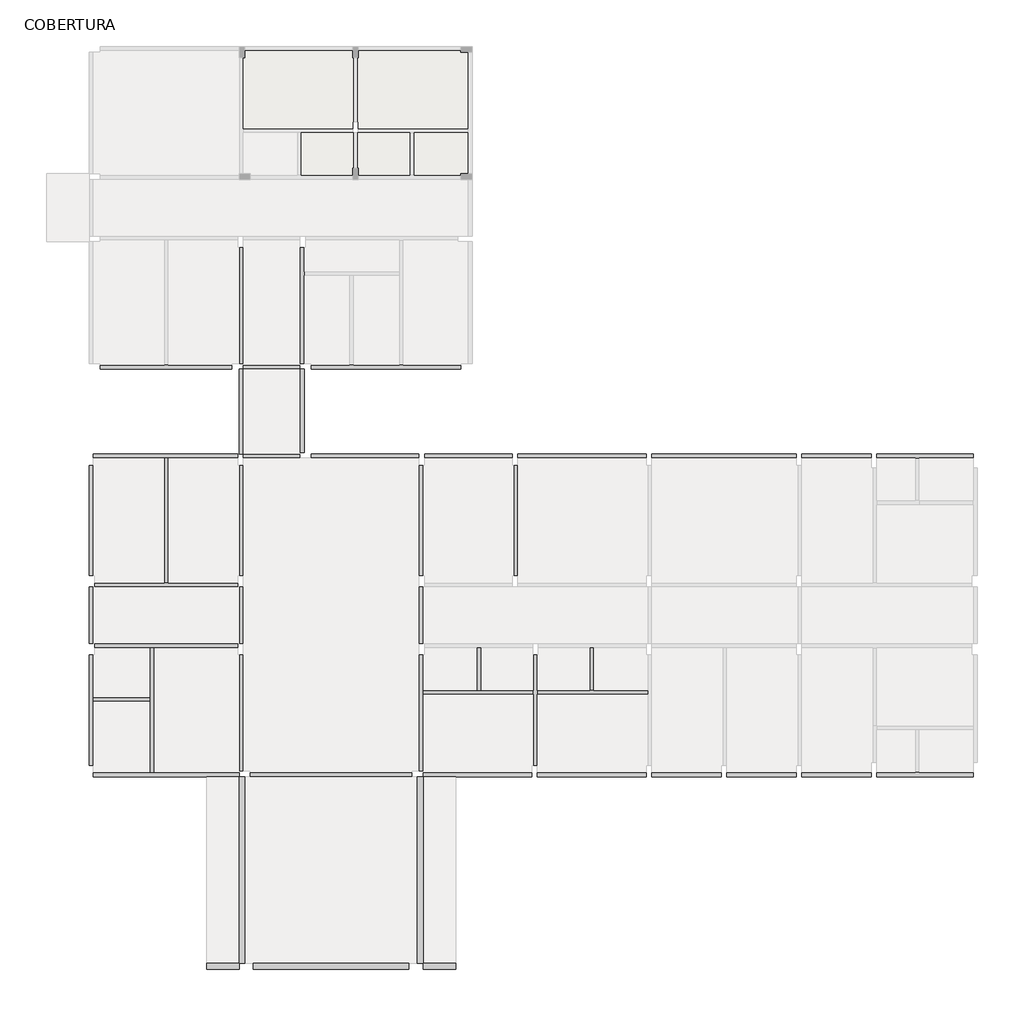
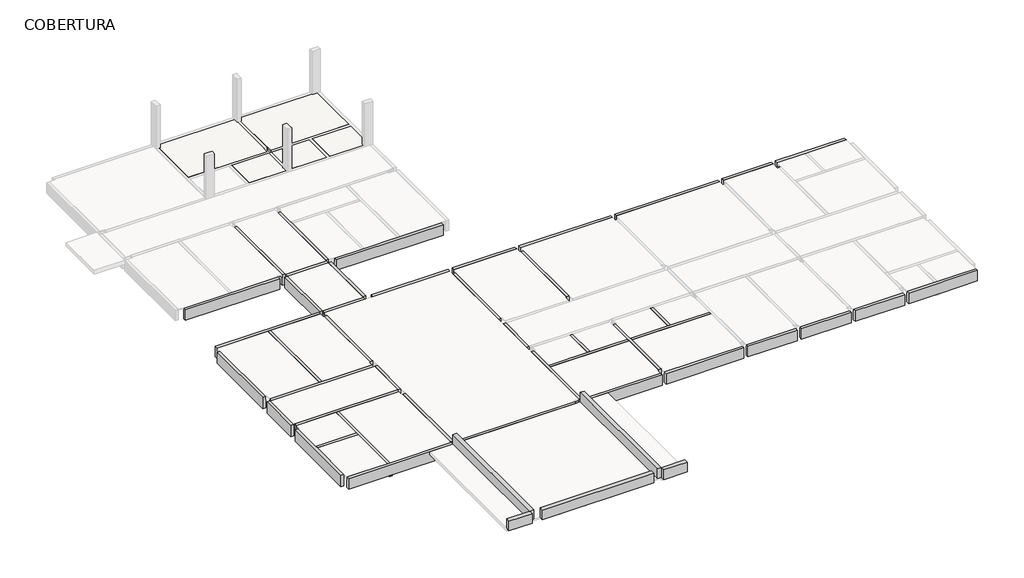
# One storey, part 4 of 5: 20 beams, 10 slabs.
"""IFC4 building model written with IfcOpenShell, lengths in millimetres."""

from ifc_helpers import new_model, si_unit, frame, origin, place, context, project, spatial, polyline, outline, extrude, faceted_brep, element, save

model = new_model("IFC4")

# Units and contexts
model_context = context("Model", 3, world=origin())
ifc_project = project(units=[si_unit("LENGTHUNIT", "METRE", prefix="MILLI")], contexts=[model_context])

# Site, building, storey
site = spatial("IfcSite", under=ifc_project)
building = spatial("IfcBuilding", under=site)
storey = spatial("IfcBuildingStorey", under=building, Name="COBERTURA", Elevation=4800.0)

# Beams
placement = place(None, origin())
element("IfcBeam", 1, ObjectType="TQS - Viga retangular : 15,0 x 50,0", at=placement, inside=storey, context=model_context, shape_type="Brep", body=[
    faceted_brep([(15150.0, 11000.0, 4800.0), (15000.0, 11000.0, 4800.0), (15000.0, 7100.0, 4800.0), (15150.0, 7100.0, 4800.0), (15150.0, 11000.0, 4300.0), (15150.0, 7100.0, 4300.0), (15000.0, 11000.0, 4300.0), (15000.0, 7100.0, 4300.0), (15000.0, 11000.0, 4750.0), (15000.0, 11000.0, 4650.0), (15000.0, 7100.0, 4650.0), (15000.0, 7100.0, 4750.0)], [[[0, 1, 2, 3]], [[4, 0, 3, 5]], [[6, 4, 5, 7]], [[1, 8, 9, 6, 7, 10, 11, 2]], [[1, 0, 4, 6, 9, 8]], [[2, 11, 10, 7, 5, 3]]]),
])
element("IfcBeam", 2, ObjectType="TQS - Viga retangular : 15,0 x 55,0", at=placement, inside=storey, context=model_context, shape_type="Brep", body=[
    faceted_brep([(31230.0, 0.0, 4800.0), (31230.0, 150.0, 4800.0), (29330.0, 150.0, 4800.0), (29180.0, 150.0, 4800.0), (27830.0, 150.0, 4800.0), (27830.0, 0.0, 4800.0), (31230.0, 0.0, 4250.0), (27830.0, 0.0, 4250.0), (29180.0, 0.0, 4250.0), (29330.0, 0.0, 4250.0), (31230.0, 150.0, 4250.0), (27830.0, 150.0, 4250.0), (29180.0, 150.0, 4250.0), (29330.0, 150.0, 4250.0), (31230.0, 150.0, 4750.0), (31230.0, 150.0, 4650.0), (27830.0, 150.0, 4750.0)], [[[0, 1, 2, 3, 4, 5]], [[6, 0, 5, 7, 8, 9]], [[10, 6, 9, 8, 7, 11, 12, 13]], [[1, 14, 15, 10, 13, 12, 11, 16, 4, 3, 2]], [[1, 0, 6, 10, 15, 14]], [[5, 4, 16, 11, 7]]]),
    faceted_brep([(150.0, 0.0, 4800.0), (150.0, 150.0, 4800.0), (150.0, 150.0, 4750.0), (150.0, 150.0, 4650.0), (150.0, 150.0, 4250.0), (150.0, 0.0, 4250.0), (5300.0, 150.0, 4800.0), (5300.0, 0.0, 4800.0), (5300.0, 0.0, 4650.0), (5300.0, 0.0, 4250.0), (5300.0, 150.0, 4250.0), (5300.0, 150.0, 4750.0), (4150.0, 0.0, 4800.0), (2300.0, 150.0, 4800.0), (2150.0, 150.0, 4800.0), (2150.0, 0.0, 4250.0), (2300.0, 0.0, 4250.0), (2150.0, 150.0, 4250.0), (2300.0, 150.0, 4250.0)], [[[0, 1, 2, 3, 4, 5]], [[6, 7, 8, 9, 10, 11]], [[1, 0, 12, 7, 6, 13, 14]], [[0, 5, 15, 16, 9, 8, 7, 12]], [[5, 4, 17, 18, 10, 9, 16, 15]], [[4, 3, 2, 1, 14, 13, 6, 11, 10, 18, 17]]]),
    faceted_brep([(5700.0, 0.0, 4800.0), (5700.0, 150.0, 4800.0), (5700.0, 150.0, 4740.0), (5700.0, 150.0, 4620.0), (5700.0, 150.0, 4250.0), (5700.0, 0.0, 4250.0), (11400.0, 150.0, 4800.0), (11400.0, 0.0, 4800.0), (11400.0, 0.0, 4250.0), (11400.0, 150.0, 4250.0), (11400.0, 150.0, 4740.0)], [[[0, 1, 2, 3, 4, 5]], [[6, 7, 8, 9, 10]], [[1, 0, 7, 6]], [[0, 5, 8, 7]], [[5, 4, 9, 8]], [[4, 3, 2, 1, 6, 10, 9]]]),
    faceted_brep([(11800.0, 0.0, 4800.0), (11800.0, 150.0, 4800.0), (11800.0, 150.0, 4750.0), (11800.0, 150.0, 4250.0), (11800.0, 0.0, 4250.0), (11800.0, 0.0, 4650.0), (15640.0, 150.0, 4800.0), (15640.0, 0.0, 4800.0), (15640.0, 0.0, 4250.0), (15640.0, 150.0, 4250.0), (15640.0, 150.0, 4650.0), (15640.0, 150.0, 4750.0), (12950.0, 0.0, 4800.0)], [[[0, 1, 2, 3, 4, 5]], [[6, 7, 8, 9, 10, 11]], [[1, 0, 12, 7, 6]], [[0, 5, 4, 8, 7, 12]], [[4, 3, 9, 8]], [[3, 2, 1, 6, 11, 10, 9]]]),
    faceted_brep([(27630.0, 150.0, 4800.0), (27630.0, 0.0, 4800.0), (27630.0, 0.0, 4250.0), (27630.0, 150.0, 4250.0), (27630.0, 150.0, 4750.0), (25180.0, 150.0, 4800.0), (25180.0, 0.0, 4800.0), (25180.0, 0.0, 4250.0), (25180.0, 150.0, 4250.0), (25180.0, 150.0, 4750.0)], [[[0, 1, 2, 3, 4]], [[1, 0, 5, 6]], [[2, 1, 6, 7]], [[3, 2, 7, 8]], [[0, 4, 3, 8, 9, 5]], [[6, 5, 9, 8, 7]]]),
    faceted_brep([(24980.0, 150.0, 4800.0), (24980.0, 0.0, 4800.0), (24980.0, 0.0, 4250.0), (24980.0, 150.0, 4250.0), (24980.0, 150.0, 4750.0), (22530.0, 150.0, 4800.0), (22530.0, 0.0, 4800.0), (22530.0, 0.0, 4250.0), (22530.0, 150.0, 4250.0), (22530.0, 150.0, 4750.0)], [[[0, 1, 2, 3, 4]], [[1, 0, 5, 6]], [[2, 1, 6, 7]], [[3, 2, 7, 8]], [[0, 4, 3, 8, 9, 5]], [[6, 5, 9, 8, 7]]]),
    faceted_brep([(22330.0, 150.0, 4800.0), (22330.0, 0.0, 4800.0), (22330.0, 0.0, 4250.0), (22330.0, 150.0, 4250.0), (22330.0, 150.0, 4750.0), (19880.0, 150.0, 4800.0), (19880.0, 0.0, 4800.0), (19880.0, 0.0, 4250.0), (19880.0, 150.0, 4250.0), (19880.0, 150.0, 4750.0)], [[[0, 1, 2, 3, 4]], [[1, 0, 5, 6]], [[2, 1, 6, 7]], [[3, 2, 7, 8]], [[0, 4, 3, 8, 9, 5]], [[6, 5, 9, 8, 7]]]),
    faceted_brep([(19680.0, 150.0, 4800.0), (19680.0, 0.0, 4800.0), (19680.0, 0.0, 4250.0), (19680.0, 150.0, 4250.0), (19680.0, 150.0, 4650.0), (19680.0, 150.0, 4750.0), (15840.0, 150.0, 4800.0), (15840.0, 0.0, 4800.0), (15840.0, 0.0, 4250.0), (15840.0, 150.0, 4250.0), (15840.0, 150.0, 4750.0)], [[[0, 1, 2, 3, 4, 5]], [[1, 0, 6, 7]], [[2, 1, 7, 8]], [[3, 2, 8, 9]], [[0, 5, 4, 3, 9, 10, 6]], [[7, 6, 10, 9, 8]]]),
])
element("IfcBeam", 3, ObjectType="TQS - Viga retangular : 15,0 x 55,0", at=placement, inside=storey, context=model_context, shape_type="Brep", body=[
    faceted_brep([(7850.0, 14550.0, 4800.0), (7850.0, 14400.0, 4800.0), (13130.0, 14400.0, 4800.0), (13130.0, 14550.0, 4800.0), (11100.0, 14550.0, 4800.0), (10950.0, 14550.0, 4800.0), (9350.0, 14550.0, 4800.0), (9200.0, 14550.0, 4800.0), (7850.0, 14400.0, 4250.0), (13130.0, 14400.0, 4250.0), (7850.0, 14550.0, 4250.0), (9200.0, 14550.0, 4250.0), (9350.0, 14550.0, 4250.0), (10950.0, 14550.0, 4250.0), (11100.0, 14550.0, 4250.0), (13130.0, 14550.0, 4250.0), (7850.0, 14550.0, 4650.0), (7850.0, 14550.0, 4750.0), (13130.0, 14550.0, 4750.0)], [[[0, 1, 2, 3, 4, 5, 6, 7]], [[1, 8, 9, 2]], [[8, 10, 11, 12, 13, 14, 15, 9]], [[10, 16, 17, 0, 7, 6, 5, 4, 3, 18, 15, 14, 13, 12, 11]], [[1, 0, 17, 16, 10, 8]], [[3, 2, 9, 15, 18]]]),
    faceted_brep([(400.0, 14400.0, 4800.0), (400.0, 14550.0, 4800.0), (400.0, 14550.0, 4750.0), (400.0, 14550.0, 4250.0), (400.0, 14400.0, 4250.0), (5050.0, 14550.0, 4800.0), (5050.0, 14400.0, 4800.0), (5050.0, 14400.0, 4250.0), (5050.0, 14550.0, 4250.0), (5050.0, 14550.0, 4750.0), (2800.0, 14550.0, 4800.0), (2650.0, 14550.0, 4800.0)], [[[0, 1, 2, 3, 4]], [[5, 6, 7, 8, 9]], [[1, 0, 6, 5, 10, 11]], [[0, 4, 7, 6]], [[4, 3, 8, 7]], [[3, 2, 1, 11, 10, 5, 9, 8]]]),
    faceted_brep([(5450.0, 14400.0, 4800.0), (5450.0, 14550.0, 4800.0), (5450.0, 14550.0, 4750.0), (5450.0, 14550.0, 4250.0), (5450.0, 14400.0, 4250.0), (5450.0, 14400.0, 4750.0), (7450.0, 14550.0, 4800.0), (7450.0, 14400.0, 4800.0), (7450.0, 14400.0, 4750.0), (7450.0, 14400.0, 4250.0), (7450.0, 14550.0, 4250.0), (7450.0, 14550.0, 4750.0)], [[[0, 1, 2, 3, 4, 5]], [[6, 7, 8, 9, 10, 11]], [[1, 0, 7, 6]], [[0, 5, 4, 9, 8, 7]], [[4, 3, 10, 9]], [[3, 2, 1, 6, 11, 10]]]),
])
element("IfcBeam", 4, ObjectType="TQS - Viga retangular : 15,0 x 55,0", at=placement, inside=storey, context=model_context, shape_type="Brep", body=[
    faceted_brep([(31230.0, 11250.0, 4800.0), (31230.0, 11400.0, 4800.0), (27830.0, 11400.0, 4800.0), (27830.0, 11250.0, 4800.0), (29180.0, 11250.0, 4800.0), (29330.0, 11250.0, 4800.0), (31230.0, 11250.0, 4250.0), (31230.0, 11250.0, 4650.0), (31230.0, 11250.0, 4750.0), (27830.0, 11250.0, 4750.0), (27830.0, 11250.0, 4650.0), (27830.0, 11250.0, 4250.0), (29180.0, 11250.0, 4250.0), (29330.0, 11250.0, 4250.0), (31230.0, 11400.0, 4250.0), (27830.0, 11400.0, 4250.0)], [[[0, 1, 2, 3, 4, 5]], [[6, 7, 8, 0, 5, 4, 3, 9, 10, 11, 12, 13]], [[14, 6, 13, 12, 11, 15]], [[1, 14, 15, 2]], [[1, 0, 8, 7, 6, 14]], [[3, 2, 15, 11, 10, 9]]]),
    faceted_brep([(27630.0, 11400.0, 4800.0), (27630.0, 11250.0, 4800.0), (27630.0, 11250.0, 4750.0), (27630.0, 11250.0, 4650.0), (27630.0, 11250.0, 4250.0), (27630.0, 11400.0, 4250.0), (25180.0, 11400.0, 4800.0), (25180.0, 11250.0, 4800.0), (25180.0, 11250.0, 4750.0), (25180.0, 11250.0, 4650.0), (25180.0, 11250.0, 4250.0), (25180.0, 11400.0, 4250.0)], [[[0, 1, 2, 3, 4, 5]], [[1, 0, 6, 7]], [[4, 3, 2, 1, 7, 8, 9, 10]], [[5, 4, 10, 11]], [[0, 5, 11, 6]], [[7, 6, 11, 10, 9, 8]]]),
    faceted_brep([(24980.0, 11400.0, 4800.0), (24980.0, 11250.0, 4800.0), (24980.0, 11250.0, 4750.0), (24980.0, 11250.0, 4650.0), (24980.0, 11250.0, 4250.0), (24980.0, 11400.0, 4250.0), (19880.0, 11400.0, 4800.0), (19880.0, 11250.0, 4800.0), (19880.0, 11250.0, 4750.0), (19880.0, 11250.0, 4650.0), (19880.0, 11250.0, 4250.0), (19880.0, 11400.0, 4250.0)], [[[0, 1, 2, 3, 4, 5]], [[1, 0, 6, 7]], [[4, 3, 2, 1, 7, 8, 9, 10]], [[5, 4, 10, 11]], [[0, 5, 11, 6]], [[7, 6, 11, 10, 9, 8]]]),
    faceted_brep([(19680.0, 11400.0, 4800.0), (19680.0, 11250.0, 4800.0), (19680.0, 11250.0, 4750.0), (19680.0, 11250.0, 4650.0), (19680.0, 11250.0, 4250.0), (19680.0, 11400.0, 4250.0), (15150.0, 11400.0, 4800.0), (15150.0, 11250.0, 4800.0), (15150.0, 11250.0, 4750.0), (15150.0, 11250.0, 4650.0), (15150.0, 11250.0, 4250.0), (15150.0, 11400.0, 4250.0)], [[[0, 1, 2, 3, 4, 5]], [[1, 0, 6, 7]], [[4, 3, 2, 1, 7, 8, 9, 10]], [[5, 4, 10, 11]], [[0, 5, 11, 6]], [[7, 6, 11, 10, 9, 8]]]),
    faceted_brep([(14950.0, 11400.0, 4800.0), (14950.0, 11250.0, 4800.0), (14950.0, 11250.0, 4750.0), (14950.0, 11250.0, 4650.0), (14950.0, 11250.0, 4250.0), (14950.0, 11400.0, 4250.0), (11850.0, 11400.0, 4800.0), (11850.0, 11250.0, 4800.0), (11850.0, 11250.0, 4750.0), (11850.0, 11250.0, 4650.0), (11850.0, 11250.0, 4250.0), (11850.0, 11400.0, 4250.0)], [[[0, 1, 2, 3, 4, 5]], [[1, 0, 6, 7]], [[4, 3, 2, 1, 7, 8, 9, 10]], [[5, 4, 10, 11]], [[0, 5, 11, 6]], [[7, 6, 11, 10, 9, 8]]]),
    faceted_brep([(11650.0, 11400.0, 4800.0), (11650.0, 11250.0, 4800.0), (11650.0, 11250.0, 4740.0), (11650.0, 11250.0, 4250.0), (11650.0, 11400.0, 4250.0), (7850.0, 11400.0, 4800.0), (7850.0, 11250.0, 4800.0), (7850.0, 11250.0, 4250.0), (7850.0, 11400.0, 4250.0)], [[[0, 1, 2, 3, 4]], [[1, 0, 5, 6]], [[3, 2, 1, 6, 7]], [[4, 3, 7, 8]], [[0, 4, 8, 5]], [[6, 5, 8, 7]]]),
    faceted_brep([(150.0, 11250.0, 4800.0), (150.0, 11400.0, 4800.0), (150.0, 11400.0, 4250.0), (150.0, 11250.0, 4250.0), (150.0, 11250.0, 4650.0), (150.0, 11250.0, 4750.0), (5250.0, 11400.0, 4800.0), (5250.0, 11250.0, 4800.0), (5250.0, 11250.0, 4750.0), (5250.0, 11250.0, 4650.0), (5250.0, 11250.0, 4250.0), (5250.0, 11400.0, 4250.0), (2650.0, 11250.0, 4800.0), (2800.0, 11250.0, 4800.0), (2650.0, 11250.0, 4250.0), (2800.0, 11250.0, 4250.0)], [[[0, 1, 2, 3, 4, 5]], [[6, 7, 8, 9, 10, 11]], [[1, 0, 12, 13, 7, 6]], [[0, 5, 4, 3, 14, 15, 10, 9, 8, 7, 13, 12]], [[3, 2, 11, 10, 15, 14]], [[2, 1, 6, 11]]]),
    faceted_brep([(5450.0, 11250.0, 4800.0), (5450.0, 11400.0, 4800.0), (5450.0, 11400.0, 4750.0), (5450.0, 11400.0, 4650.0), (5450.0, 11400.0, 4250.0), (5450.0, 11250.0, 4250.0), (5450.0, 11250.0, 4740.0), (7450.0, 11400.0, 4800.0), (7450.0, 11250.0, 4800.0), (7450.0, 11250.0, 4250.0), (7450.0, 11400.0, 4250.0), (7450.0, 11400.0, 4650.0), (7450.0, 11400.0, 4750.0)], [[[0, 1, 2, 3, 4, 5, 6]], [[7, 8, 9, 10, 11, 12]], [[1, 0, 8, 7]], [[0, 6, 5, 9, 8]], [[5, 4, 10, 9]], [[4, 3, 2, 1, 7, 12, 11, 10]]]),
])
element("IfcBeam", 5, ObjectType="TQS - Viga retangular : 15,0 x 55,0", at=placement, inside=storey, context=model_context, shape_type="Brep", body=[
    faceted_brep([(5250.0, 6700.0, 4800.0), (5250.0, 6850.0, 4800.0), (2800.0, 6850.0, 4800.0), (2650.0, 6850.0, 4800.0), (200.0, 6850.0, 4800.0), (200.0, 6700.0, 4800.0), (5250.0, 6700.0, 4250.0), (200.0, 6700.0, 4250.0), (5250.0, 6850.0, 4250.0), (200.0, 6850.0, 4250.0), (2650.0, 6850.0, 4250.0), (2800.0, 6850.0, 4250.0), (5250.0, 6850.0, 4750.0), (200.0, 6850.0, 4750.0)], [[[0, 1, 2, 3, 4, 5]], [[6, 0, 5, 7]], [[8, 6, 7, 9, 10, 11]], [[1, 12, 8, 11, 10, 9, 13, 4, 3, 2]], [[1, 0, 6, 8, 12]], [[5, 4, 13, 9, 7]]]),
])
element("IfcBeam", 6, ObjectType="TQS - Viga retangular : 15,0 x 55,0", at=placement, inside=storey, context=model_context, shape_type="Brep", body=[
    faceted_brep([(5300.0, 200.0, 4800.0), (5450.0, 200.0, 4800.0), (5450.0, 4300.0, 4800.0), (5300.0, 4300.0, 4800.0), (5450.0, 200.0, 4740.0), (5450.0, 200.0, 4250.0), (5450.0, 4300.0, 4250.0), (5300.0, 200.0, 4250.0), (5300.0, 4300.0, 4250.0), (5300.0, 4300.0, 4750.0), (5300.0, 4300.0, 4650.0)], [[[0, 1, 2, 3]], [[1, 4, 5, 6, 2]], [[5, 7, 8, 6]], [[7, 0, 3, 9, 10, 8]], [[1, 0, 7, 5, 4]], [[3, 2, 6, 8, 10, 9]]]),
    faceted_brep([(5450.0, 4700.0, 4800.0), (5300.0, 4700.0, 4800.0), (5300.0, 4700.0, 4750.0), (5300.0, 4700.0, 4250.0), (5450.0, 4700.0, 4250.0), (5300.0, 6700.0, 4800.0), (5450.0, 6700.0, 4800.0), (5450.0, 6700.0, 4250.0), (5300.0, 6700.0, 4250.0), (5300.0, 6700.0, 4750.0)], [[[0, 1, 2, 3, 4]], [[5, 6, 7, 8, 9]], [[1, 0, 6, 5]], [[0, 4, 7, 6]], [[4, 3, 8, 7]], [[3, 2, 1, 5, 9, 8]]]),
    faceted_brep([(5300.0, 11000.0, 4800.0), (5300.0, 7100.0, 4800.0), (5450.0, 7100.0, 4800.0), (5450.0, 11000.0, 4800.0), (5450.0, 7100.0, 4250.0), (5450.0, 11000.0, 4250.0), (5300.0, 7100.0, 4250.0), (5300.0, 11000.0, 4250.0), (5300.0, 11000.0, 4750.0), (5300.0, 11000.0, 4650.0), (5300.0, 7100.0, 4650.0), (5300.0, 7100.0, 4750.0)], [[[0, 1, 2, 3]], [[3, 2, 4, 5]], [[5, 4, 6, 7]], [[1, 0, 8, 9, 7, 6, 10, 11]], [[2, 1, 11, 10, 6, 4]], [[0, 3, 5, 7, 9, 8]]]),
    faceted_brep([(5450.0, 11400.0, 4800.0), (5300.0, 11400.0, 4800.0), (5300.0, 11400.0, 4250.0), (5450.0, 11400.0, 4250.0), (5450.0, 11400.0, 4650.0), (5450.0, 11400.0, 4750.0), (5300.0, 14400.0, 4800.0), (5450.0, 14400.0, 4800.0), (5450.0, 14400.0, 4750.0), (5450.0, 14400.0, 4250.0), (5300.0, 14400.0, 4250.0)], [[[0, 1, 2, 3, 4, 5]], [[6, 7, 8, 9, 10]], [[6, 1, 0, 7]], [[7, 0, 5, 4, 3, 9, 8]], [[9, 3, 2, 10]], [[1, 6, 10, 2]]]),
    faceted_brep([(5450.0, 14600.0, 4800.0), (5300.0, 14600.0, 4800.0), (5300.0, 14600.0, 4750.0), (5300.0, 14600.0, 4650.0), (5300.0, 14600.0, 4250.0), (5450.0, 14600.0, 4250.0), (5300.0, 18700.0, 4800.0), (5450.0, 18700.0, 4800.0), (5450.0, 18700.0, 4250.0), (5300.0, 18700.0, 4250.0), (5300.0, 18700.0, 4650.0), (5300.0, 18700.0, 4750.0)], [[[0, 1, 2, 3, 4, 5]], [[6, 7, 8, 9, 10, 11]], [[1, 0, 7, 6]], [[0, 5, 8, 7]], [[5, 4, 9, 8]], [[4, 3, 2, 1, 6, 11, 10, 9]]]),
])
element("IfcBeam", 7, ObjectType="TQS - Viga retangular : 15,0 x 55,0", at=placement, inside=storey, context=model_context, shape_type="Brep", body=[
    faceted_brep([(11650.0, 200.0, 4800.0), (11800.0, 200.0, 4800.0), (11800.0, 2900.0, 4800.0), (11800.0, 3050.0, 4800.0), (11800.0, 4300.0, 4800.0), (11650.0, 4300.0, 4800.0), (11800.0, 200.0, 4250.0), (11800.0, 2900.0, 4250.0), (11800.0, 3050.0, 4250.0), (11800.0, 4300.0, 4250.0), (11800.0, 4300.0, 4650.0), (11800.0, 4300.0, 4750.0), (11650.0, 200.0, 4250.0), (11650.0, 4300.0, 4250.0), (11650.0, 200.0, 4740.0)], [[[0, 1, 2, 3, 4, 5]], [[1, 6, 7, 8, 9, 10, 11, 4, 3, 2]], [[6, 12, 13, 9, 8, 7]], [[12, 14, 0, 5, 13]], [[1, 0, 14, 12, 6]], [[5, 4, 11, 10, 9, 13]]]),
    faceted_brep([(11800.0, 4700.0, 4800.0), (11650.0, 4700.0, 4800.0), (11650.0, 4700.0, 4250.0), (11800.0, 4700.0, 4250.0), (11800.0, 4700.0, 4750.0), (11650.0, 6700.0, 4800.0), (11800.0, 6700.0, 4800.0), (11800.0, 6700.0, 4750.0), (11800.0, 6700.0, 4250.0), (11650.0, 6700.0, 4250.0)], [[[0, 1, 2, 3, 4]], [[5, 6, 7, 8, 9]], [[1, 0, 6, 5]], [[0, 4, 3, 8, 7, 6]], [[3, 2, 9, 8]], [[2, 1, 5, 9]]]),
    faceted_brep([(11650.0, 7100.0, 4800.0), (11800.0, 7100.0, 4800.0), (11800.0, 11000.0, 4800.0), (11650.0, 11000.0, 4800.0), (11800.0, 7100.0, 4750.0), (11800.0, 7100.0, 4650.0), (11800.0, 7100.0, 4250.0), (11800.0, 11000.0, 4250.0), (11800.0, 11000.0, 4650.0), (11800.0, 11000.0, 4750.0), (11650.0, 7100.0, 4250.0), (11650.0, 11000.0, 4250.0)], [[[0, 1, 2, 3]], [[1, 4, 5, 6, 7, 8, 9, 2]], [[6, 10, 11, 7]], [[10, 0, 3, 11]], [[1, 0, 10, 6, 5, 4]], [[3, 2, 9, 8, 7, 11]]]),
])
element("IfcBeam", 8, ObjectType="TQS - Viga retangular : 15,0 x 55,0", at=placement, inside=storey, context=model_context, shape_type="Brep", body=[
    faceted_brep([(15690.0, 400.0, 4800.0), (15840.0, 400.0, 4800.0), (15840.0, 2900.0, 4800.0), (15840.0, 3050.0, 4800.0), (15840.0, 4300.0, 4800.0), (15690.0, 4300.0, 4800.0), (15690.0, 3050.0, 4800.0), (15690.0, 2900.0, 4800.0), (15840.0, 400.0, 4250.0), (15840.0, 2900.0, 4250.0), (15840.0, 3050.0, 4250.0), (15840.0, 4300.0, 4250.0), (15840.0, 4300.0, 4650.0), (15840.0, 4300.0, 4750.0), (15690.0, 400.0, 4250.0), (15690.0, 2900.0, 4250.0), (15690.0, 3050.0, 4250.0), (15690.0, 4300.0, 4250.0), (15690.0, 400.0, 4650.0), (15690.0, 400.0, 4750.0), (15690.0, 4300.0, 4750.0), (15690.0, 4300.0, 4650.0)], [[[0, 1, 2, 3, 4, 5, 6, 7]], [[1, 8, 9, 10, 11, 12, 13, 4, 3, 2]], [[8, 14, 15, 16, 17, 11, 10, 9]], [[14, 18, 19, 0, 7, 6, 5, 20, 21, 17, 16, 15]], [[1, 0, 19, 18, 14, 8]], [[5, 4, 13, 12, 11, 17, 21, 20]]]),
])
element("IfcBeam", 9, ObjectType="TQS - Viga retangular : 15,0 x 55,0", at=placement, inside=storey, context=model_context, shape_type="Brep", body=[
    faceted_brep([(11800.0, 3050.0, 4800.0), (11800.0, 2900.0, 4800.0), (15690.0, 2900.0, 4800.0), (15690.0, 3050.0, 4800.0), (13850.0, 3050.0, 4800.0), (13700.0, 3050.0, 4800.0), (11800.0, 2900.0, 4750.0), (11800.0, 2900.0, 4250.0), (15690.0, 2900.0, 4250.0), (15690.0, 2900.0, 4650.0), (15690.0, 2900.0, 4750.0), (11800.0, 3050.0, 4250.0), (13700.0, 3050.0, 4250.0), (13850.0, 3050.0, 4250.0), (15690.0, 3050.0, 4250.0), (11800.0, 3050.0, 4650.0), (11800.0, 3050.0, 4750.0), (15690.0, 3050.0, 4750.0)], [[[0, 1, 2, 3, 4, 5]], [[1, 6, 7, 8, 9, 10, 2]], [[7, 11, 12, 13, 14, 8]], [[11, 15, 16, 0, 5, 4, 3, 17, 14, 13, 12]], [[1, 0, 16, 15, 11, 7, 6]], [[3, 2, 10, 9, 8, 14, 17]]]),
    faceted_brep([(15840.0, 2900.0, 4800.0), (15840.0, 3050.0, 4800.0), (15840.0, 3050.0, 4750.0), (15840.0, 3050.0, 4250.0), (15840.0, 2900.0, 4250.0), (15840.0, 2900.0, 4750.0), (19730.0, 2900.0, 4800.0), (19730.0, 3050.0, 4800.0), (17830.0, 3050.0, 4800.0), (17680.0, 3050.0, 4800.0), (19730.0, 2900.0, 4250.0), (19730.0, 2900.0, 4650.0), (19730.0, 2900.0, 4750.0), (17680.0, 3050.0, 4250.0), (17830.0, 3050.0, 4250.0), (19730.0, 3050.0, 4250.0), (19730.0, 3050.0, 4750.0), (19730.0, 3050.0, 4650.0)], [[[0, 1, 2, 3, 4, 5]], [[1, 0, 6, 7, 8, 9]], [[0, 5, 4, 10, 11, 12, 6]], [[4, 3, 13, 14, 15, 10]], [[3, 2, 1, 9, 8, 7, 16, 17, 15, 14, 13]], [[7, 6, 12, 11, 10, 15, 17, 16]]]),
])
element("IfcBeam", 10, ObjectType="TQS - Viga retangular : 15,0 x 55,0", at=placement, inside=storey, context=model_context, shape_type="Brep", body=[
    faceted_brep([(13850.0, 4550.0, 4800.0), (13700.0, 4550.0, 4800.0), (13700.0, 3050.0, 4800.0), (13850.0, 3050.0, 4800.0), (13850.0, 4550.0, 4250.0), (13850.0, 4550.0, 4750.0), (13850.0, 3050.0, 4750.0), (13850.0, 3050.0, 4250.0), (13700.0, 4550.0, 4250.0), (13700.0, 3050.0, 4250.0), (13700.0, 4550.0, 4750.0), (13700.0, 3050.0, 4750.0)], [[[0, 1, 2, 3]], [[4, 5, 0, 3, 6, 7]], [[8, 4, 7, 9]], [[1, 10, 8, 9, 11, 2]], [[1, 0, 5, 4, 8, 10]], [[3, 2, 11, 9, 7, 6]]]),
])
element("IfcBeam", 11, ObjectType="TQS - Viga retangular : 15,0 x 55,0", at=placement, inside=storey, context=model_context, shape_type="Brep", body=[
    faceted_brep([(17830.0, 4550.0, 4800.0), (17680.0, 4550.0, 4800.0), (17680.0, 3050.0, 4800.0), (17830.0, 3050.0, 4800.0), (17830.0, 4550.0, 4250.0), (17830.0, 4550.0, 4750.0), (17830.0, 3050.0, 4750.0), (17830.0, 3050.0, 4250.0), (17680.0, 4550.0, 4250.0), (17680.0, 3050.0, 4250.0), (17680.0, 4550.0, 4750.0), (17680.0, 3050.0, 4750.0)], [[[0, 1, 2, 3]], [[4, 5, 0, 3, 6, 7]], [[8, 4, 7, 9]], [[1, 10, 8, 9, 11, 2]], [[1, 0, 5, 4, 8, 10]], [[3, 2, 11, 9, 7, 6]]]),
])
element("IfcBeam", 12, ObjectType="TQS - Viga retangular : 15,0 x 55,0", at=placement, inside=storey, context=model_context, shape_type="Brep", body=[
    faceted_brep([(7600.0, 14400.0, 4800.0), (7450.0, 14400.0, 4800.0), (7450.0, 11450.0, 4800.0), (7600.0, 11450.0, 4800.0), (7600.0, 14400.0, 4250.0), (7600.0, 11450.0, 4250.0), (7450.0, 14400.0, 4250.0), (7450.0, 11450.0, 4250.0), (7450.0, 14400.0, 4750.0)], [[[0, 1, 2, 3]], [[4, 0, 3, 5]], [[6, 4, 5, 7]], [[1, 8, 6, 7, 2]], [[1, 0, 4, 6, 8]], [[3, 2, 7, 5]]]),
    faceted_brep([(7450.0, 18700.0, 4800.0), (7600.0, 18700.0, 4800.0), (7600.0, 18700.0, 4750.0), (7600.0, 18700.0, 4650.0), (7600.0, 18700.0, 4250.0), (7450.0, 18700.0, 4250.0), (7600.0, 14600.0, 4800.0), (7450.0, 14600.0, 4800.0), (7450.0, 14600.0, 4250.0), (7600.0, 14600.0, 4250.0), (7600.0, 14600.0, 4650.0), (7600.0, 14600.0, 4750.0), (7600.0, 17700.0, 4800.0), (7600.0, 17850.0, 4800.0), (7600.0, 17700.0, 4250.0), (7600.0, 17850.0, 4250.0)], [[[0, 1, 2, 3, 4, 5]], [[6, 7, 8, 9, 10, 11]], [[1, 0, 7, 6, 12, 13]], [[4, 3, 2, 1, 13, 12, 6, 11, 10, 9, 14, 15]], [[5, 4, 15, 14, 9, 8]], [[0, 5, 8, 7]]]),
])
element("IfcBeam", 13, ObjectType="TQS - Viga retangular : 15,0 x 55,0", at=placement, inside=storey, context=model_context, shape_type="Brep", body=[
    faceted_brep([(2800.0, 11250.0, 4800.0), (2650.0, 11250.0, 4800.0), (2650.0, 6850.0, 4800.0), (2800.0, 6850.0, 4800.0), (2800.0, 11250.0, 4250.0), (2800.0, 11250.0, 4650.0), (2800.0, 11250.0, 4750.0), (2800.0, 6850.0, 4750.0), (2800.0, 6850.0, 4250.0), (2650.0, 11250.0, 4250.0), (2650.0, 6850.0, 4250.0), (2650.0, 11250.0, 4750.0), (2650.0, 11250.0, 4650.0), (2650.0, 6850.0, 4750.0)], [[[0, 1, 2, 3]], [[4, 5, 6, 0, 3, 7, 8]], [[9, 4, 8, 10]], [[1, 11, 12, 9, 10, 13, 2]], [[1, 0, 6, 5, 4, 9, 12, 11]], [[3, 2, 13, 10, 8, 7]]]),
])
element("IfcBeam", 14, ObjectType="TQS - Viga retangular : 15,0 x 60,0", at=placement, inside=storey, context=model_context, shape_type="Brep", body=[
    faceted_brep([(0.0, 7100.0, 4800.0), (150.0, 7100.0, 4800.0), (150.0, 11000.0, 4800.0), (0.0, 11000.0, 4800.0), (150.0, 7100.0, 4750.0), (150.0, 7100.0, 4650.0), (150.0, 7100.0, 4200.0), (150.0, 11000.0, 4200.0), (0.0, 7100.0, 4200.0), (0.0, 11000.0, 4200.0)], [[[0, 1, 2, 3]], [[1, 4, 5, 6, 7, 2]], [[6, 8, 9, 7]], [[8, 0, 3, 9]], [[1, 0, 8, 6, 5, 4]], [[3, 2, 7, 9]]]),
    faceted_brep([(150.0, 400.0, 4800.0), (0.0, 400.0, 4800.0), (0.0, 400.0, 4200.0), (150.0, 400.0, 4200.0), (0.0, 4300.0, 4800.0), (150.0, 4300.0, 4800.0), (150.0, 4300.0, 4750.0), (150.0, 4300.0, 4650.0), (150.0, 4300.0, 4200.0), (0.0, 4300.0, 4200.0), (150.0, 2650.0, 4800.0), (150.0, 2800.0, 4800.0), (150.0, 2650.0, 4200.0), (150.0, 2800.0, 4200.0)], [[[0, 1, 2, 3]], [[4, 5, 6, 7, 8, 9]], [[1, 0, 10, 11, 5, 4]], [[0, 3, 12, 13, 8, 7, 6, 5, 11, 10]], [[3, 2, 9, 8, 13, 12]], [[2, 1, 4, 9]]]),
    faceted_brep([(0.0, 6700.0, 4800.0), (150.0, 6700.0, 4800.0), (150.0, 6700.0, 4750.0), (150.0, 6700.0, 4200.0), (0.0, 6700.0, 4200.0), (0.0, 4700.0, 4800.0), (150.0, 4700.0, 4800.0), (150.0, 4700.0, 4750.0), (150.0, 4700.0, 4200.0), (0.0, 4700.0, 4200.0)], [[[0, 1, 2, 3, 4]], [[1, 0, 5, 6]], [[3, 2, 1, 6, 7, 8]], [[4, 3, 8, 9]], [[0, 4, 9, 5]], [[6, 5, 9, 8, 7]]]),
])
element("IfcBeam", 15, ObjectType="TQS - Viga retangular : 15,0 x 60,0", at=placement, inside=storey, context=model_context, shape_type="Brep", body=[
    faceted_brep([(5250.0, 4550.0, 4800.0), (5250.0, 4700.0, 4800.0), (200.0, 4700.0, 4800.0), (200.0, 4550.0, 4800.0), (2150.0, 4550.0, 4800.0), (2300.0, 4550.0, 4800.0), (5250.0, 4550.0, 4200.0), (5250.0, 4550.0, 4650.0), (5250.0, 4550.0, 4750.0), (200.0, 4550.0, 4750.0), (200.0, 4550.0, 4200.0), (2150.0, 4550.0, 4200.0), (2300.0, 4550.0, 4200.0), (5250.0, 4700.0, 4200.0), (200.0, 4700.0, 4200.0)], [[[0, 1, 2, 3, 4, 5]], [[6, 7, 8, 0, 5, 4, 3, 9, 10, 11, 12]], [[13, 6, 12, 11, 10, 14]], [[1, 13, 14, 2]], [[1, 0, 8, 7, 6, 13]], [[3, 2, 14, 10, 9]]]),
])
element("IfcBeam", 16, ObjectType="TQS - Viga retangular : 15,0 x 60,0", at=placement, inside=storey, context=model_context, shape_type="Brep", body=[
    faceted_brep([(2150.0, 150.0, 4800.0), (2300.0, 150.0, 4800.0), (2300.0, 4550.0, 4800.0), (2150.0, 4550.0, 4800.0), (2150.0, 2800.0, 4800.0), (2150.0, 2650.0, 4800.0), (2300.0, 150.0, 4250.0), (2300.0, 0.0, 4250.0), (2300.0, 0.0, 4200.0), (2300.0, 4550.0, 4200.0), (2300.0, 4550.0, 4650.0), (2300.0, 4550.0, 4750.0), (2300.0, 150.0, 4750.0), (2150.0, 0.0, 4200.0), (2150.0, 2650.0, 4200.0), (2150.0, 2800.0, 4200.0), (2150.0, 4550.0, 4200.0), (2150.0, 0.0, 4250.0), (2150.0, 150.0, 4250.0), (2150.0, 150.0, 4650.0), (2150.0, 150.0, 4750.0), (2150.0, 4550.0, 4750.0)], [[[0, 1, 2, 3, 4, 5]], [[6, 7, 8, 9, 10, 11, 2, 1, 12]], [[8, 13, 14, 15, 16, 9]], [[17, 18, 19, 20, 0, 5, 4, 3, 21, 16, 15, 14, 13]], [[6, 18, 17, 7]], [[18, 6, 12, 1, 0, 20, 19]], [[3, 2, 11, 10, 9, 16, 21]], [[13, 8, 7, 17]]]),
])
element("IfcBeam", 17, ObjectType="TQS - Viga retangular : 15,0 x 60,0", at=placement, inside=storey, context=model_context, shape_type="Brep", body=[
    faceted_brep([(150.0, 2800.0, 4800.0), (150.0, 2650.0, 4800.0), (2150.0, 2650.0, 4800.0), (2150.0, 2800.0, 4800.0), (150.0, 2650.0, 4750.0), (150.0, 2650.0, 4200.0), (2150.0, 2650.0, 4200.0), (2150.0, 2650.0, 4750.0), (150.0, 2800.0, 4200.0), (2150.0, 2800.0, 4200.0), (150.0, 2800.0, 4750.0), (2150.0, 2800.0, 4750.0)], [[[0, 1, 2, 3]], [[1, 4, 5, 6, 7, 2]], [[5, 8, 9, 6]], [[8, 10, 0, 3, 11, 9]], [[1, 0, 10, 8, 5, 4]], [[3, 2, 7, 6, 9, 11]]]),
])
element("IfcBeam", 18, ObjectType="TQS - Viga retangular : 20,0 x 50,0", at=placement, inside=storey, context=model_context, shape_type="SweptSolid", body=[
    extrude(outline(polyline([(12950.0, -6600.0), (12950.0, -6800.0), (11800.0, -6800.0), (11800.0, -6600.0), (12950.0, -6600.0)])), frame((0.0, 0.0, 4800.0), z_axis=(0.0, 0.0, 1.0), x_axis=(1.0, 0.0, 0.0)), (0.0, 0.0, 1.0), 500.0),
    extrude(outline(polyline([(4150.0, -6800.0), (4150.0, -6600.0), (5300.0, -6600.0), (5300.0, -6800.0), (4150.0, -6800.0)])), frame((0.0, 0.0, 4800.0), z_axis=(0.0, 0.0, 1.0), x_axis=(1.0, 0.0, 0.0)), (0.0, 0.0, 1.0), 500.0),
    extrude(outline(polyline([(5800.0, -6800.0), (5800.0, -6600.0), (11300.0, -6600.0), (11300.0, -6800.0), (5800.0, -6800.0)])), frame((0.0, 0.0, 4800.0), z_axis=(0.0, 0.0, 1.0), x_axis=(1.0, 0.0, 0.0)), (0.0, 0.0, 1.0), 500.0),
])
element("IfcBeam", 19, ObjectType="TQS - Viga retangular : 20,0 x 50,0", at=placement, inside=storey, context=model_context, shape_type="SweptSolid", body=[
    extrude(outline(polyline([(5500.0, -6600.0), (5300.0, -6600.0), (5300.0, 0.0), (5500.0, 0.0), (5500.0, -6600.0)])), frame((0.0, 0.0, 4800.0), z_axis=(0.0, 0.0, 1.0), x_axis=(1.0, 0.0, 0.0)), (0.0, 0.0, 1.0), 500.0),
])
element("IfcBeam", 20, ObjectType="TQS - Viga retangular : 20,0 x 50,0", at=placement, inside=storey, context=model_context, shape_type="SweptSolid", body=[
    extrude(outline(polyline([(11800.0, -6600.0), (11600.0, -6600.0), (11600.0, 0.0), (11800.0, 0.0), (11800.0, -6600.0)])), frame((0.0, 0.0, 4800.0), z_axis=(0.0, 0.0, 1.0), x_axis=(1.0, 0.0, 0.0)), (0.0, 0.0, 1.0), 500.0),
])

# Slabs
element("IfcSlab", 21, ObjectType="h=5", at=placement, inside=storey, context=model_context, shape_type="SweptSolid", body=[
    extrude(outline(polyline([(5500.0, 25650.0), (9315.0, 25650.0), (9315.0, 25400.0), (9340.0, 25400.0), (9340.0, 23150.0), (9315.0, 23150.0), (9315.0, 22900.0), (5450.0, 22900.0), (5450.0, 25400.0), (5500.0, 25400.0), (5500.0, 25650.0)])), frame((0.0, 0.0, 4750.0), z_axis=(0.0, 0.0, 1.0), x_axis=(1.0, 0.0, 0.0)), (0.0, 0.0, 1.0), 50.0),
])
element("IfcSlab", 22, ObjectType="h=10", at=placement, inside=storey, context=model_context, shape_type="SweptSolid", body=[
    extrude(outline(polyline([(9315.0, 25650.0), (9315.0, 25400.0), (9340.0, 25400.0), (9340.0, 23150.0), (9315.0, 23150.0), (9315.0, 22900.0), (9280.0, 22900.0), (9280.0, 24100.0), (8880.0, 24100.0), (8880.0, 22900.0), (8790.0, 22900.0), (8790.0, 24100.0), (8390.0, 24100.0), (8390.0, 22900.0), (8300.0, 22900.0), (8300.0, 24100.0), (7900.0, 24100.0), (7900.0, 22900.0), (7810.0, 22900.0), (7810.0, 24100.0), (7410.0, 24100.0), (7410.0, 22900.0), (7320.0, 22900.0), (7320.0, 24100.0), (6920.0, 24100.0), (6920.0, 22900.0), (6830.0, 22900.0), (6830.0, 24100.0), (6430.0, 24100.0), (6430.0, 22900.0), (6340.0, 22900.0), (6340.0, 24100.0), (5940.0, 24100.0), (5940.0, 22900.0), (5850.0, 22900.0), (5850.0, 24100.0), (5450.0, 24100.0), (5450.0, 24190.0), (5850.0, 24190.0), (5850.0, 25390.0), (5450.0, 25390.0), (5450.0, 25400.0), (5500.0, 25400.0), (5500.0, 25480.0), (5850.0, 25480.0), (5850.0, 25650.0), (5940.0, 25650.0), (5940.0, 25480.0), (6340.0, 25480.0), (6340.0, 25650.0), (6430.0, 25650.0), (6430.0, 25480.0), (6830.0, 25480.0), (6830.0, 25650.0), (6920.0, 25650.0), (6920.0, 25480.0), (7320.0, 25480.0), (7320.0, 25650.0), (7410.0, 25650.0), (7410.0, 25480.0), (7810.0, 25480.0), (7810.0, 25650.0), (7900.0, 25650.0), (7900.0, 25480.0), (8300.0, 25480.0), (8300.0, 25650.0), (8390.0, 25650.0), (8390.0, 25480.0), (8790.0, 25480.0), (8790.0, 25650.0), (8880.0, 25650.0), (8880.0, 25480.0), (9280.0, 25480.0), (9280.0, 25650.0), (9315.0, 25650.0)]), holes=[polyline([(8880.0, 25390.0), (8880.0, 24190.0), (9280.0, 24190.0), (9280.0, 25390.0), (8880.0, 25390.0)]), polyline([(8390.0, 25390.0), (8390.0, 24190.0), (8790.0, 24190.0), (8790.0, 25390.0), (8390.0, 25390.0)]), polyline([(7900.0, 25390.0), (7900.0, 24190.0), (8300.0, 24190.0), (8300.0, 25390.0), (7900.0, 25390.0)]), polyline([(7410.0, 25390.0), (7410.0, 24190.0), (7810.0, 24190.0), (7810.0, 25390.0), (7410.0, 25390.0)]), polyline([(6920.0, 25390.0), (6920.0, 24190.0), (7320.0, 24190.0), (7320.0, 25390.0), (6920.0, 25390.0)]), polyline([(6430.0, 25390.0), (6430.0, 24190.0), (6830.0, 24190.0), (6830.0, 25390.0), (6430.0, 25390.0)]), polyline([(5940.0, 25390.0), (5940.0, 24190.0), (6340.0, 24190.0), (6340.0, 25390.0), (5940.0, 25390.0)])]), frame((0.0, 0.0, 4650.0), z_axis=(0.0, 0.0, 1.0), x_axis=(1.0, 0.0, 0.0)), (0.0, 0.0, 1.0), 100.0),
])
element("IfcSlab", 23, ObjectType="h=5", at=placement, inside=storey, context=model_context, shape_type="SweptSolid", body=[
    extrude(outline(polyline([(9515.0, 25650.0), (13130.0, 25650.0), (13130.0, 25600.0), (13380.0, 25600.0), (13380.0, 22900.0), (9515.0, 22900.0), (9515.0, 23150.0), (9490.0, 23150.0), (9490.0, 25400.0), (9515.0, 25400.0), (9515.0, 25650.0)])), frame((0.0, 0.0, 4750.0), z_axis=(0.0, 0.0, 1.0), x_axis=(1.0, 0.0, 0.0)), (0.0, 0.0, 1.0), 50.0),
])
element("IfcSlab", 24, ObjectType="h=10", at=placement, inside=storey, context=model_context, shape_type="SweptSolid", body=[
    extrude(outline(polyline([(13130.0, 25650.0), (13130.0, 25600.0), (12980.0, 25600.0), (12980.0, 25480.0), (13380.0, 25480.0), (13380.0, 25390.0), (12980.0, 25390.0), (12980.0, 24190.0), (13380.0, 24190.0), (13380.0, 24100.0), (12980.0, 24100.0), (12980.0, 22900.0), (12890.0, 22900.0), (12890.0, 24100.0), (12490.0, 24100.0), (12490.0, 22900.0), (12400.0, 22900.0), (12400.0, 24100.0), (12000.0, 24100.0), (12000.0, 22900.0), (11910.0, 22900.0), (11910.0, 24100.0), (11510.0, 24100.0), (11510.0, 22900.0), (11420.0, 22900.0), (11420.0, 24100.0), (11020.0, 24100.0), (11020.0, 22900.0), (10930.0, 22900.0), (10930.0, 24100.0), (10530.0, 24100.0), (10530.0, 22900.0), (10440.0, 22900.0), (10440.0, 24100.0), (10040.0, 24100.0), (10040.0, 22900.0), (9950.0, 22900.0), (9950.0, 24100.0), (9550.0, 24100.0), (9550.0, 22900.0), (9515.0, 22900.0), (9515.0, 23150.0), (9490.0, 23150.0), (9490.0, 25400.0), (9515.0, 25400.0), (9515.0, 25650.0), (9550.0, 25650.0), (9550.0, 25480.0), (9950.0, 25480.0), (9950.0, 25650.0), (10040.0, 25650.0), (10040.0, 25480.0), (10440.0, 25480.0), (10440.0, 25650.0), (10530.0, 25650.0), (10530.0, 25480.0), (10930.0, 25480.0), (10930.0, 25650.0), (11020.0, 25650.0), (11020.0, 25480.0), (11420.0, 25480.0), (11420.0, 25650.0), (11510.0, 25650.0), (11510.0, 25480.0), (11910.0, 25480.0), (11910.0, 25650.0), (12000.0, 25650.0), (12000.0, 25480.0), (12400.0, 25480.0), (12400.0, 25650.0), (12490.0, 25650.0), (12490.0, 25480.0), (12890.0, 25480.0), (12890.0, 25650.0), (13130.0, 25650.0)]), holes=[polyline([(12490.0, 25390.0), (12490.0, 24190.0), (12890.0, 24190.0), (12890.0, 25390.0), (12490.0, 25390.0)]), polyline([(12000.0, 25390.0), (12000.0, 24190.0), (12400.0, 24190.0), (12400.0, 25390.0), (12000.0, 25390.0)]), polyline([(11510.0, 25390.0), (11510.0, 24190.0), (11910.0, 24190.0), (11910.0, 25390.0), (11510.0, 25390.0)]), polyline([(11020.0, 25390.0), (11020.0, 24190.0), (11420.0, 24190.0), (11420.0, 25390.0), (11020.0, 25390.0)]), polyline([(10530.0, 25390.0), (10530.0, 24190.0), (10930.0, 24190.0), (10930.0, 25390.0), (10530.0, 25390.0)]), polyline([(10040.0, 25390.0), (10040.0, 24190.0), (10440.0, 24190.0), (10440.0, 25390.0), (10040.0, 25390.0)]), polyline([(9550.0, 25390.0), (9550.0, 24190.0), (9950.0, 24190.0), (9950.0, 25390.0), (9550.0, 25390.0)])]), frame((0.0, 0.0, 4650.0), z_axis=(0.0, 0.0, 1.0), x_axis=(1.0, 0.0, 0.0)), (0.0, 0.0, 1.0), 100.0),
])
element("IfcSlab", 25, ObjectType="h=5", at=placement, inside=storey, context=model_context, shape_type="Brep", body=[
    faceted_brep([(9315.0, 21250.0, 4750.0), (7500.0, 21250.0, 4750.0), (7500.0, 22750.0, 4750.0), (9340.0, 22750.0, 4750.0), (9340.0, 21500.0, 4750.0), (9315.0, 21500.0, 4750.0), (9315.0, 21250.0, 4800.0), (9315.0, 21500.0, 4800.0), (9340.0, 21500.0, 4800.0), (9340.0, 22750.0, 4800.0), (9315.0, 22750.0, 4800.0), (7500.0, 22750.0, 4800.0), (7500.0, 21250.0, 4800.0)], [[[0, 1, 2, 3, 4, 5]], [[6, 7, 8, 9, 10, 11, 12]], [[1, 0, 6, 12]], [[2, 1, 12, 11]], [[3, 2, 11, 10, 9]], [[4, 3, 9, 8]], [[5, 4, 8, 7]], [[0, 5, 7, 6]]]),
])
element("IfcSlab", 26, ObjectType="h=10", at=placement, inside=storey, context=model_context, shape_type="SweptSolid", body=[
    extrude(outline(polyline([(9340.0, 21500.0), (9315.0, 21500.0), (9315.0, 22450.0), (8970.0, 22450.0), (8970.0, 21250.0), (8880.0, 21250.0), (8880.0, 22450.0), (8480.0, 22450.0), (8480.0, 21250.0), (8390.0, 21250.0), (8390.0, 22450.0), (7990.0, 22450.0), (7990.0, 21250.0), (7900.0, 21250.0), (7900.0, 22450.0), (7500.0, 22450.0), (7500.0, 22540.0), (7900.0, 22540.0), (7900.0, 22750.0), (7990.0, 22750.0), (7990.0, 22540.0), (8390.0, 22540.0), (8390.0, 22750.0), (8480.0, 22750.0), (8480.0, 22540.0), (8880.0, 22540.0), (8880.0, 22750.0), (8970.0, 22750.0), (8970.0, 22540.0), (9340.0, 22540.0), (9340.0, 21500.0)])), frame((0.0, 0.0, 4650.0), z_axis=(0.0, 0.0, 1.0), x_axis=(1.0, 0.0, 0.0)), (0.0, 0.0, 1.0), 100.0),
])
element("IfcSlab", 27, ObjectType="h=5", at=placement, inside=storey, context=model_context, shape_type="Brep", body=[
    faceted_brep([(11330.0, 21250.0, 4750.0), (9515.0, 21250.0, 4750.0), (9515.0, 21500.0, 4750.0), (9490.0, 21500.0, 4750.0), (9490.0, 22750.0, 4750.0), (11330.0, 22750.0, 4750.0), (11330.0, 21250.0, 4800.0), (11330.0, 22750.0, 4800.0), (9515.0, 22750.0, 4800.0), (9490.0, 22750.0, 4800.0), (9490.0, 21500.0, 4800.0), (9515.0, 21500.0, 4800.0), (9515.0, 21250.0, 4800.0)], [[[0, 1, 2, 3, 4, 5]], [[6, 7, 8, 9, 10, 11, 12]], [[1, 0, 6, 12]], [[2, 1, 12, 11]], [[3, 2, 11, 10]], [[4, 3, 10, 9]], [[5, 4, 9, 8, 7]], [[0, 5, 7, 6]]]),
])
element("IfcSlab", 28, ObjectType="h=10", at=placement, inside=storey, context=model_context, shape_type="SweptSolid", body=[
    extrude(outline(polyline([(9515.0, 21500.0), (9490.0, 21500.0), (9490.0, 22540.0), (9860.0, 22540.0), (9860.0, 22750.0), (9950.0, 22750.0), (9950.0, 22540.0), (10350.0, 22540.0), (10350.0, 22750.0), (10440.0, 22750.0), (10440.0, 22540.0), (10840.0, 22540.0), (10840.0, 22750.0), (10930.0, 22750.0), (10930.0, 22540.0), (11330.0, 22540.0), (11330.0, 22450.0), (10930.0, 22450.0), (10930.0, 21250.0), (10840.0, 21250.0), (10840.0, 22450.0), (10440.0, 22450.0), (10440.0, 21250.0), (10350.0, 21250.0), (10350.0, 22450.0), (9950.0, 22450.0), (9950.0, 21250.0), (9860.0, 21250.0), (9860.0, 22450.0), (9515.0, 22450.0), (9515.0, 21500.0)])), frame((0.0, 0.0, 4650.0), z_axis=(0.0, 0.0, 1.0), x_axis=(1.0, 0.0, 0.0)), (0.0, 0.0, 1.0), 100.0),
])
element("IfcSlab", 29, ObjectType="h=5", at=placement, inside=storey, context=model_context, shape_type="SweptSolid", body=[
    extrude(outline(polyline([(13130.0, 21250.0), (11480.0, 21250.0), (11480.0, 22750.0), (13380.0, 22750.0), (13380.0, 21300.0), (13130.0, 21300.0), (13130.0, 21250.0)])), frame((0.0, 0.0, 4750.0), z_axis=(0.0, 0.0, 1.0), x_axis=(1.0, 0.0, 0.0)), (0.0, 0.0, 1.0), 50.0),
])
element("IfcSlab", 30, ObjectType="h=10", at=placement, inside=storey, context=model_context, shape_type="SweptSolid", body=[
    extrude(outline(polyline([(13380.0, 22750.0), (13380.0, 21300.0), (13350.0, 21300.0), (13350.0, 22450.0), (12950.0, 22450.0), (12950.0, 21250.0), (12860.0, 21250.0), (12860.0, 22450.0), (12460.0, 22450.0), (12460.0, 21250.0), (12370.0, 21250.0), (12370.0, 22450.0), (11970.0, 22450.0), (11970.0, 21250.0), (11880.0, 21250.0), (11880.0, 22450.0), (11480.0, 22450.0), (11480.0, 22540.0), (11880.0, 22540.0), (11880.0, 22750.0), (11970.0, 22750.0), (11970.0, 22540.0), (12370.0, 22540.0), (12370.0, 22750.0), (12460.0, 22750.0), (12460.0, 22540.0), (12860.0, 22540.0), (12860.0, 22750.0), (12950.0, 22750.0), (12950.0, 22540.0), (13350.0, 22540.0), (13350.0, 22750.0), (13380.0, 22750.0)])), frame((0.0, 0.0, 4650.0), z_axis=(0.0, 0.0, 1.0), x_axis=(1.0, 0.0, 0.0)), (0.0, 0.0, 1.0), 100.0),
])

save(model, "model.ifc")
